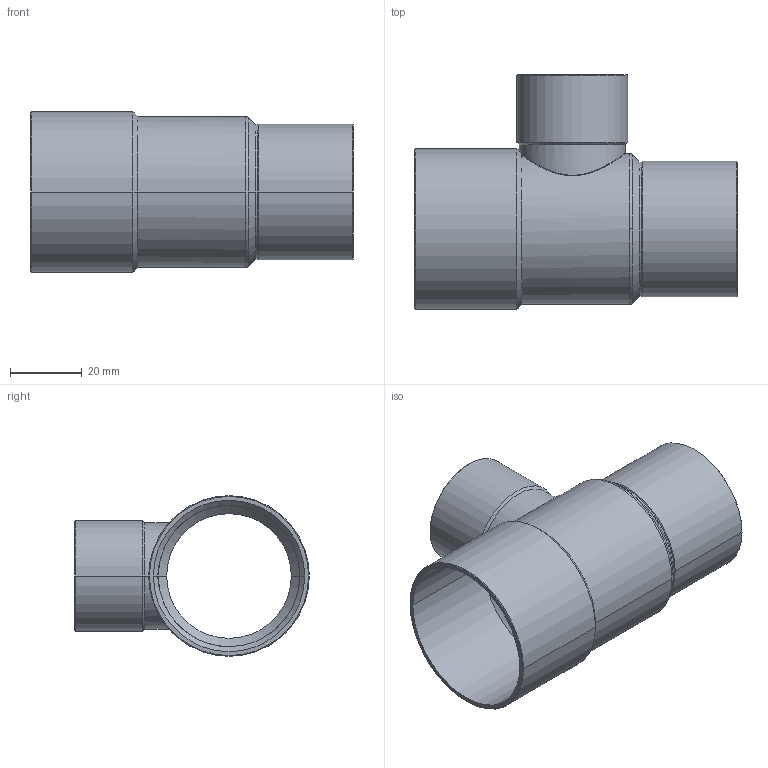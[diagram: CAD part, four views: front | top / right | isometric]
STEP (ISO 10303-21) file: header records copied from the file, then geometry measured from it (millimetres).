
FILE_DESCRIPTION((''),'2;1');
FILE_NAME('G:\Technics\CAD\Bauteile\15130\15130422835.stp','2005-11-03T13:43:06',('boden'),(''),'Autodesk Inventor 8','Autodesk Inventor 8','');
FILE_SCHEMA(('AUTOMOTIVE_DESIGN { 1 0 10303 214 1 1 1 1 }'));
Length unit declared in the file: millimetre
Products named in the file (1): 15130422835
Bounding box: 90 x 65.38 x 44.75 mm (x, y, z)
Volume: 17320.2 mm3; surface area: 26835.1 mm2
Topology: 1 solids, 1 shells, 57 faces, 129 edges, 73 vertices
Faces by surface type: cone 26, cylinder 24, plane 3, torus 2, bspline 2
Entity records: 2095 total; most frequent: CARTESIAN_POINT 787, DIRECTION 288, ORIENTED_EDGE 258, EDGE_CURVE 129, AXIS2_PLACEMENT_3D 119, VERTEX_POINT 73, CIRCLE 63, EDGE_LOOP 60
